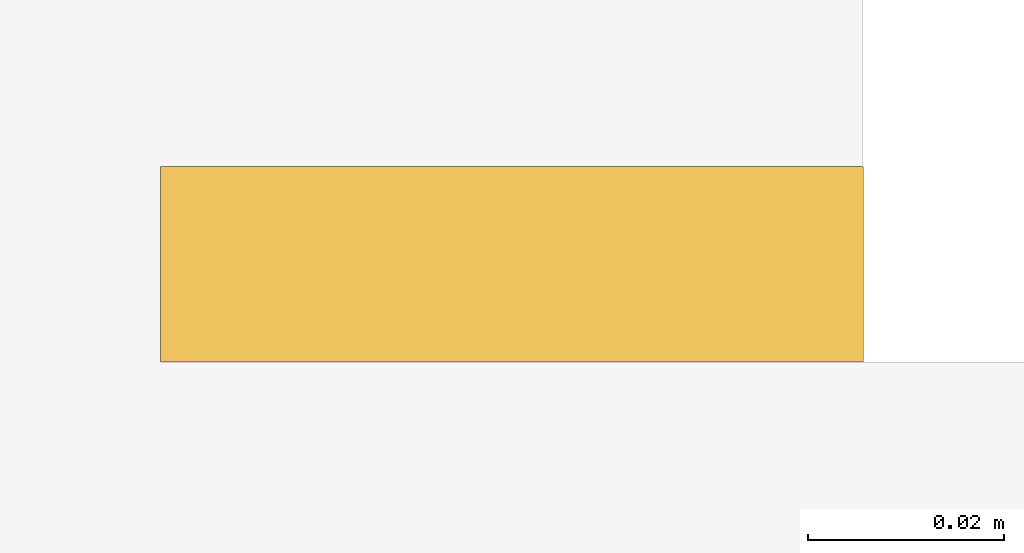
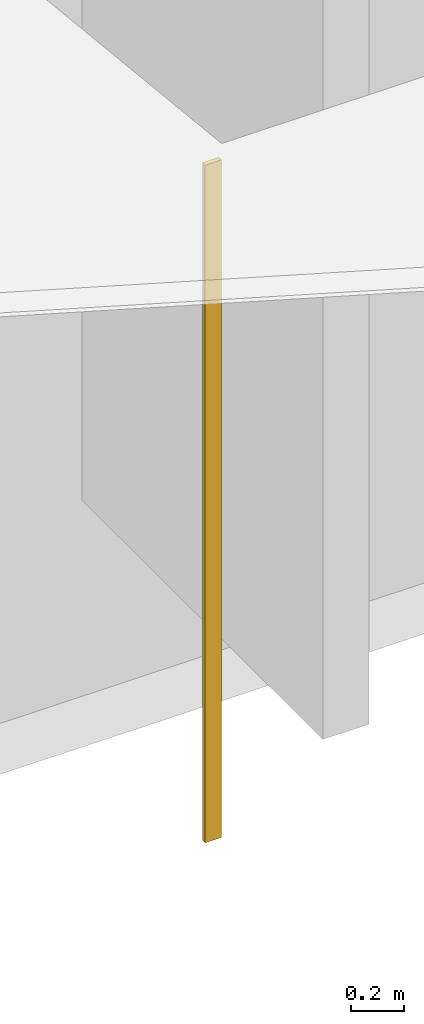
# One storey, part 36 of 43: 1 covering.
"""IFC2X3 building model written with IfcOpenShell, lengths in millimetres."""

import ifcopenshell
import ifcopenshell.guid

model = None  # the IFC model being written
_history = None  # IfcOwnerHistory: only IFC2X3 demands one
_inside = {}  # id of a spatial element -> (the spatial element, [elements in it])
_under = {}  # id of a project, library or spatial element -> (it, [spatial elements below it])
_declared = {}  # id of a project -> (the project, [libraries it declares])
_typed = {}  # id of a type object -> (the type object, [elements of that type])
_made_of = {}  # id of a material, layer set ... -> (it, [elements and type objects made of it])


def new_model(schema):
    """Start an empty IFC model of exactly this schema.

    Asked for "IFC4X3", IfcOpenShell would pick the latest addendum, in which some entities
    have other attributes; the version numbers below select the first issue.
    IFC2X3 requires an IfcOwnerHistory on every rooted entity: one is made here for all.
    """
    global model, _history
    if schema == "IFC4X3":
        model = ifcopenshell.file(schema_version=(4, 3, 0, 0))
    else:
        model = ifcopenshell.file(schema=schema)
    _inside.clear()
    _under.clear()
    _declared.clear()
    _typed.clear()
    _made_of.clear()
    _history = None
    if model.schema == "IFC2X3":
        org = make("IfcOrganization", Name="unknown")
        user = make(
            "IfcPersonAndOrganization",
            ThePerson=make("IfcPerson", FamilyName="unknown"),
            TheOrganization=org,
        )
        app = make(
            "IfcApplication",
            ApplicationDeveloper=org,
            Version="unknown",
            ApplicationFullName="unknown",
            ApplicationIdentifier="unknown",
        )
        _history = make(
            "IfcOwnerHistory",
            OwningUser=user,
            OwningApplication=app,
            ChangeAction="ADDED",
            CreationDate=0,
        )
    return model


def make(cls, **values):
    """One entity of the class cls with the attributes given. An attribute that is None is left unset."""
    return model.create_entity(
        cls, **{name: value for name, value in values.items() if value is not None}
    )


def entity(cls, *values):
    """Any entity or typed value of the class cls, its attributes in the order of the schema. None: left unset."""
    e = model.create_entity(cls)
    for i, value in enumerate(values):
        if value is not None:
            e[i] = value
    return e


def rooted(cls, **values):
    """An entity with a GlobalId (a new one), such as an element, a storey or a relation."""
    return make(cls, GlobalId=ifcopenshell.guid.new(), OwnerHistory=_history, **values)


def si_unit(unit_type, name, prefix=None):
    """IfcSIUnit, for example si_unit("LENGTHUNIT", "METRE", prefix="MILLI")."""
    return make("IfcSIUnit", UnitType=unit_type, Prefix=prefix, Name=name)


def converted_unit(unit_type, name, factor, base, dimensions=None, offset=None):
    """IfcConversionBasedUnit, such as the inch: factor (a typed value) times the base unit."""
    return make(
        "IfcConversionBasedUnit"
        if offset is None
        else "IfcConversionBasedUnitWithOffset",
        ConversionOffset=offset,
        Dimensions=None
        if dimensions is None
        else entity("IfcDimensionalExponents", *dimensions),
        UnitType=unit_type,
        Name=name,
        ConversionFactor=make(
            "IfcMeasureWithUnit", ValueComponent=factor, UnitComponent=base
        ),
    )


def derived_unit(unit_type, elements):
    """IfcDerivedUnit: a product of units, each with its exponent."""
    return make(
        "IfcDerivedUnit",
        Elements=[
            make("IfcDerivedUnitElement", Unit=unit, Exponent=power)
            for unit, power in elements
        ],
        UnitType=unit_type,
    )


def money_unit(currency):
    """IfcMonetaryUnit."""
    return make("IfcMonetaryUnit", Currency=currency)


def assignment(units):
    """IfcUnitAssignment: the units of a project."""
    return None if units is None else make("IfcUnitAssignment", Units=units)


def point(xyz):
    """IfcCartesianPoint."""
    return None if xyz is None else make("IfcCartesianPoint", Coordinates=xyz)


def direction(xyz):
    """IfcDirection."""
    return None if xyz is None else make("IfcDirection", DirectionRatios=xyz)


def frame(location, z_axis=None, x_axis=None):
    """IfcAxis2Placement3D, a coordinate frame: its origin and axes. An axis left out is left unset."""
    return make(
        "IfcAxis2Placement3D",
        Location=point(location),
        Axis=direction(z_axis),
        RefDirection=direction(x_axis),
    )


def origin_with_axes():
    """The frame at (0, 0, 0) with the z axis (0, 0, 1) and the x axis (1, 0, 0) written out."""
    return frame((0.0, 0.0, 0.0), z_axis=(0.0, 0.0, 1.0), x_axis=(1.0, 0.0, 0.0))


def place(relative_to, where):
    """IfcLocalPlacement: puts the frame where relative to a parent placement (None: the world)."""
    return make(
        "IfcLocalPlacement", PlacementRelTo=relative_to, RelativePlacement=where
    )


def context(
    kind, dimensions, precision=None, world=None, true_north=None, identifier=None
):
    """IfcGeometricRepresentationContext, for example the 3D "Model" context."""
    return make(
        "IfcGeometricRepresentationContext",
        ContextIdentifier=identifier,
        ContextType=kind,
        CoordinateSpaceDimension=dimensions,
        Precision=precision,
        WorldCoordinateSystem=world,
        TrueNorth=true_north,
    )


def subcontext(parent, identifier, kind, view, scale=None):
    """IfcGeometricRepresentationSubContext, for example "Body" below "Model"."""
    return make(
        "IfcGeometricRepresentationSubContext",
        ContextIdentifier=identifier,
        ContextType=kind,
        ParentContext=parent,
        TargetScale=scale,
        TargetView=view,
    )


def project(units=None, contexts=None):
    """IfcProject with its units and contexts."""
    return rooted(
        "IfcProject",
        Name="project",
        RepresentationContexts=contexts,
        UnitsInContext=assignment(units),
    )


def spatial(cls, under=None, at=None, **own):
    """A site, building, storey or space (cls), placed at a placement, below another one or the project."""
    s = rooted(cls, ObjectPlacement=at, **own)
    if under is not None:
        _under.setdefault(under.id(), (under, []))[1].append(s)
    return s


def faces_of(points, faces, orient=None, outer=None):
    """IfcFace entities. A face is a list of loops; a loop is a list of indices into points, from 0.

    orient and outer hold one flag for each loop. By default every Orientation is true, the
    first loop of a face is its IfcFaceOuterBound and the others are IfcFaceBound.
    """
    made = []
    for i, loops in enumerate(faces):
        bounds = []
        for j, loop in enumerate(loops):
            is_outer = j == 0 if outer is None else outer[i][j]
            bounds.append(
                make(
                    "IfcFaceOuterBound" if is_outer else "IfcFaceBound",
                    Bound=make("IfcPolyLoop", Polygon=[points[k] for k in loop]),
                    Orientation=True if orient is None else orient[i][j],
                )
            )
        made.append(make("IfcFace", Bounds=bounds))
    return made


def faceted_brep(points, faces, orient=None, outer=None, voids=None):
    """IfcFacetedBrep: a solid bounded by flat faces; with voids (closed shells), ...WithVoids."""
    shared = [point(p) for p in points]
    hull = make("IfcClosedShell", CfsFaces=faces_of(shared, faces, orient, outer))
    if voids is None:
        return make("IfcFacetedBrep", Outer=hull)
    return make(
        "IfcFacetedBrepWithVoids",
        Outer=hull,
        Voids=[
            make(cls, CfsFaces=faces_of(shared, fs, o, b)) for cls, fs, o, b in voids
        ],
    )


def shape(context_of_items, identifier, shape_type, items):
    """IfcShapeRepresentation: the items that make up one representation, for example the "Body"."""
    return make(
        "IfcShapeRepresentation",
        ContextOfItems=context_of_items,
        RepresentationIdentifier=identifier,
        RepresentationType=shape_type,
        Items=items,
    )


def material(Name=None, Category=None):
    """IfcMaterial."""
    return make("IfcMaterial", Name=Name, Category=Category)


def made_of(thing, what):
    """Note that an element or type object is made of a material, layer set ...; save() writes the relation."""
    if what is not None:
        _made_of.setdefault(what.id(), (what, []))[1].append(thing)
    return thing


def type_object(cls, material=None, **own):
    """A type object (cls), such as IfcWallType, which elements share."""
    return made_of(rooted(cls, **own), material)


def element(
    cls,
    number,
    at=None,
    inside=None,
    cuts=None,
    type_object=None,
    material=None,
    context=None,
    identifier="Body",
    shape_type=None,
    held_by="IfcProductDefinitionShape",
    body=None,
    shapes=None,
    **own,
):
    """One element of the class cls, such as IfcWall. Its Tag is "e" and its number.

    at: its placement. inside: the storey or other place that contains it. cuts: it is an
    opening in that element (IfcRelVoidsElement). A single representation is given by context,
    identifier, shape_type and body (its items); several are given by shapes. held_by: the class
    of the entity that holds the representations. save() writes the other relations.
    """
    e = rooted(cls, Tag="e%d" % number, ObjectPlacement=at, **own)
    if body is not None:
        shapes = [shape(context, identifier, shape_type, body)]
    if shapes is not None:
        e.Representation = make(held_by, Representations=shapes)
    if inside is not None:
        _inside.setdefault(inside.id(), (inside, []))[1].append(e)
    if cuts is not None:
        rooted(
            "IfcRelVoidsElement", RelatingBuildingElement=cuts, RelatedOpeningElement=e
        )
    if type_object is not None:
        _typed.setdefault(type_object.id(), (type_object, []))[1].append(e)
    return made_of(e, material)


def aggregate(whole, parts):
    """IfcRelAggregates: a whole, such as a stair, and the parts it consists of."""
    return rooted("IfcRelAggregates", RelatingObject=whole, RelatedObjects=parts)


def save(model, path):
    """Write the relations noted so far, then the file.

    IfcRelAggregates (storeys below a building ...), IfcRelContainedInSpatialStructure (elements
    in a storey), IfcRelDefinesByType, IfcRelAssociatesMaterial and IfcRelDeclares: one each for
    every whole, place, type object, material and project.
    """
    for whole, parts in _under.values():
        aggregate(whole, parts)
    for where, things in _inside.values():
        rooted(
            "IfcRelContainedInSpatialStructure",
            RelatedElements=things,
            RelatingStructure=where,
        )
    for kind, things in _typed.values():
        rooted("IfcRelDefinesByType", RelatedObjects=things, RelatingType=kind)
    for what, things in _made_of.values():
        rooted("IfcRelAssociatesMaterial", RelatedObjects=things, RelatingMaterial=what)
    for by, libraries in _declared.values():
        rooted("IfcRelDeclares", RelatingContext=by, RelatedDefinitions=libraries)
    model.write(path)


model = new_model("IFC2X3")

# Units and contexts
model_context = context("Model", 3, precision=0.01, world=origin_with_axes(), true_north=direction((0.0, 1.0)))
body_context = subcontext(model_context, "Body", "Model", "MODEL_VIEW")
ifc_project = project(units=[si_unit("LENGTHUNIT", "METRE", prefix="MILLI"), si_unit("AREAUNIT", "SQUARE_METRE"), si_unit("VOLUMEUNIT", "CUBIC_METRE"), converted_unit("PLANEANGLEUNIT", "DEGREE", entity("IfcPlaneAngleMeasure", 0.0174532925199), si_unit("PLANEANGLEUNIT", "RADIAN"), dimensions=[0, 0, 0, 0, 0, 0, 0]), si_unit("SOLIDANGLEUNIT", "STERADIAN"), money_unit("EUR"), converted_unit("TIMEUNIT", "Year", entity("IfcTimeMeasure", 31556926.0), si_unit("TIMEUNIT", "SECOND"), dimensions=[0, 0, 1, 0, 0, 0, 0]), si_unit("MASSUNIT", "GRAM", prefix="KILO"), si_unit("THERMODYNAMICTEMPERATUREUNIT", "DEGREE_CELSIUS"), si_unit("LUMINOUSINTENSITYUNIT", "LUMEN"), si_unit("ENERGYUNIT", "JOULE", prefix="MEGA"), derived_unit("THERMALCONDUCTANCEUNIT", [(si_unit("POWERUNIT", "WATT"), 1), (si_unit("LENGTHUNIT", "METRE"), -1), (si_unit("THERMODYNAMICTEMPERATUREUNIT", "KELVIN"), -1)]), derived_unit("SPECIFICHEATCAPACITYUNIT", [(si_unit("ENERGYUNIT", "JOULE"), 1), (si_unit("MASSUNIT", "GRAM", prefix="KILO"), -1), (si_unit("THERMODYNAMICTEMPERATUREUNIT", "KELVIN"), -1)]), derived_unit("MASSDENSITYUNIT", [(si_unit("MASSUNIT", "GRAM", prefix="KILO"), 1), (si_unit("VOLUMEUNIT", "CUBIC_METRE"), -1)])], contexts=[model_context])

# Site, building, storey
site_placement = place(None, origin_with_axes())
site = spatial("IfcSite", under=ifc_project, at=site_placement, Name="L.Koidula tn 11b", CompositionType="ELEMENT")
building_placement = place(site_placement, origin_with_axes())
building = spatial("IfcBuilding", under=site, at=building_placement, Name="Rakvere Riigigümnaasium", CompositionType="ELEMENT")
storey_placement = place(building_placement, frame((0.0, 0.0, 6665.0), z_axis=(0.0, 0.0, 1.0), x_axis=(1.0, 0.0, 0.0)))
storey = spatial("IfcBuildingStorey", under=building, at=storey_placement, Name="3.korrus +6,66", CompositionType="ELEMENT", Elevation=6665.0)

# Covering
ifc_material = material(Name="MDF")
covering_type = type_object("IfcCoveringType", Name="MDF 20", PredefinedType="CLADDING")
covering_placement = place(storey_placement, frame((75415.0821418, 15110.4785302, 775.0), z_axis=(0.0, 0.0, 1.0), x_axis=(1.0, 0.0, 0.0)))
element("IfcCovering", 1, at=covering_placement, inside=storey, type_object=covering_type, material=ifc_material, Name="S-04", PredefinedType="CLADDING", context=body_context, shape_type="Brep", body=[
    faceted_brep([(-57.0, 0.0, 0.0), (14.9, 0.0, 0.0), (14.9, -20.0, 0.0), (-57.0, -20.0, 0.0), (-57.0, 0.0, 3105.0), (14.9, 0.0, 3105.0), (14.9, -20.0, 3105.0), (-57.0, -20.0, 3105.0)], [[[0, 1, 2, 3]], [[4, 5, 1, 0]], [[2, 1, 5, 6]], [[3, 2, 6, 7]], [[4, 0, 3, 7]], [[7, 6, 5, 4]]]),
])

save(model, "model.ifc")
